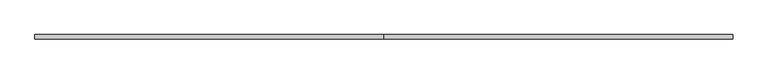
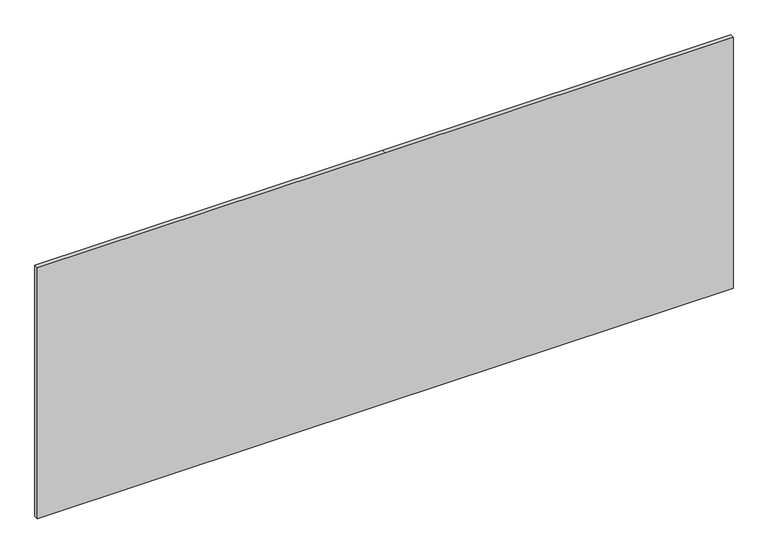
"""IFC4 building model written with IfcOpenShell, lengths in millimetres: plate geometry, 系统嵌板 : 玻璃."""

from ifc_helpers import new_model, si_unit, frame, origin, place, context, project, spatial, polyline, outline, extrude, source, transform, mapped, element, save


def plate_8429bb85(model_context):
    return source(origin(), model_context, "Body", "SweptSolid", [
        extrude(outline(polyline([(0.0, -2000.0), (0.0, 0.0), (0.0, 2000.0), (1525.0, 2000.0), (1525.0, 0.0), (1525.0, -2000.0), (0.0, -2000.0)])), frame((0.0, -12.5, 0.0), z_axis=(0.0, 1.0, 0.0), x_axis=(0.0, 0.0, 1.0)), (0.0, 0.0, 1.0), 25.0),
    ])


if __name__ == "__main__":
    model = new_model("IFC4")
    model_context = context("Model", 3, world=origin())
    ifc_project = project(units=[si_unit("LENGTHUNIT", "METRE", prefix="MILLI")], contexts=[model_context])
    site = spatial("IfcSite", under=ifc_project)
    building = spatial("IfcBuilding", under=site)
    placement = place(None, origin())
    plate_shape = plate_8429bb85(model_context)
    element("IfcPlate", 1, ObjectType="系统嵌板 : 玻璃", at=placement, inside=building, context=model_context, shape_type="MappedRepresentation", body=[
        mapped(plate_shape, transform((0.0, 0.0, 0.0), x_axis=(1.0, 0.0, 0.0), y_axis=(0.0, 1.0, 0.0), z_axis=(0.0, 0.0, 1.0))),
    ])
    save(model, "model.ifc")
